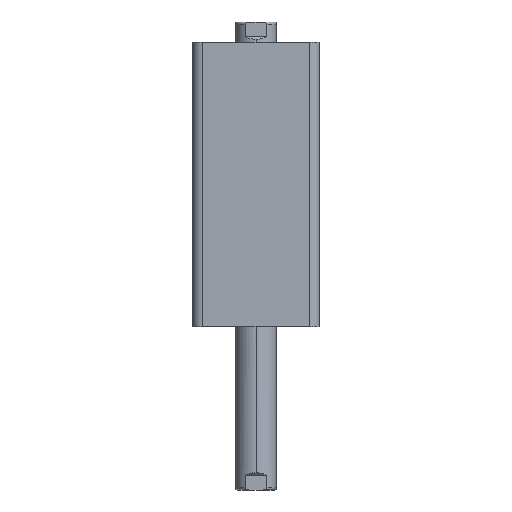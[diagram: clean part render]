
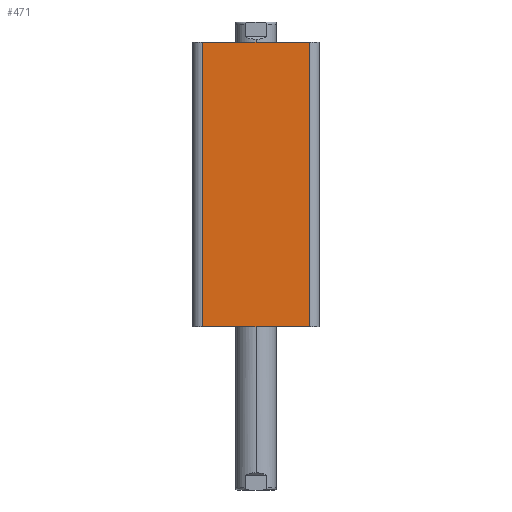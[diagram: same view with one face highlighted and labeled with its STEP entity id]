
A CAD part, left-side view. The second image highlights one B-rep face of the part: STEP entity #471.
In plain terms, the highlighted planar face has unit normal (-1, 0, 0).
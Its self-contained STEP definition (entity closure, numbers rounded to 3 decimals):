
#415 = AXIS2_PLACEMENT_3D ( 'NONE', #2804, #2805, #2806 ) ;
#471 = ADVANCED_FACE ( 'NONE', ( #1388 ), #2802, .F. ) ;
#685 = EDGE_LOOP ( 'NONE', ( #2350, #857, #865, #2370 ) ) ;
#857 = ORIENTED_EDGE ( 'NONE', *, *, #2777, .T. ) ;
#865 = ORIENTED_EDGE ( 'NONE', *, *, #2778, .F. ) ;
#970 = VERTEX_POINT ( 'NONE', #2556 ) ;
#972 = VERTEX_POINT ( 'NONE', #2558 ) ;
#1024 = VERTEX_POINT ( 'NONE', #2610 ) ;
#1033 = VERTEX_POINT ( 'NONE', #2619 ) ;
#1388 = FACE_OUTER_BOUND ( 'NONE', #685, .T. ) ;
#1847 = LINE ( 'NONE', #2004, #1856 ) ;
#1851 = LINE ( 'NONE', #2015, #1854 ) ;
#1854 = VECTOR ( 'NONE', #2016, 1000. ) ;
#1855 = LINE ( 'NONE', #2018, #1858 ) ;
#1856 = VECTOR ( 'NONE', #2017, 1000. ) ;
#1857 = LINE ( 'NONE', #2020, #1860 ) ;
#1858 = VECTOR ( 'NONE', #2019, 1000. ) ;
#1860 = VECTOR ( 'NONE', #2021, 1000. ) ;
#2004 = CARTESIAN_POINT ( 'NONE',  ( -31., -26., 139. ) ) ;
#2015 = CARTESIAN_POINT ( 'NONE',  ( -31., 31., 0. ) ) ;
#2016 = DIRECTION ( 'NONE',  ( 0., -1., 0. ) ) ;
#2017 = DIRECTION ( 'NONE',  ( 0., 0., 1. ) ) ;
#2018 = CARTESIAN_POINT ( 'NONE',  ( -31., 31., 139. ) ) ;
#2019 = DIRECTION ( 'NONE',  ( 0., -1., 0. ) ) ;
#2020 = CARTESIAN_POINT ( 'NONE',  ( -31., 26., 139. ) ) ;
#2021 = DIRECTION ( 'NONE',  ( 0., 0., -1. ) ) ;
#2350 = ORIENTED_EDGE ( 'NONE', *, *, #2776, .T. ) ;
#2370 = ORIENTED_EDGE ( 'NONE', *, *, #2779, .T. ) ;
#2556 = CARTESIAN_POINT ( 'NONE',  ( -31., -26., 0. ) ) ;
#2558 = CARTESIAN_POINT ( 'NONE',  ( -31., 26., 139. ) ) ;
#2610 = CARTESIAN_POINT ( 'NONE',  ( -31., -26., 139. ) ) ;
#2619 = CARTESIAN_POINT ( 'NONE',  ( -31., 26., 0. ) ) ;
#2776 = EDGE_CURVE ( 'NONE', #1033, #970, #1851, .T. ) ;
#2777 = EDGE_CURVE ( 'NONE', #970, #1024, #1847, .T. ) ;
#2778 = EDGE_CURVE ( 'NONE', #972, #1024, #1855, .T. ) ;
#2779 = EDGE_CURVE ( 'NONE', #972, #1033, #1857, .T. ) ;
#2802 = PLANE ( 'NONE',  #415 ) ;
#2804 = CARTESIAN_POINT ( 'NONE',  ( -31., 31., 139. ) ) ;
#2805 = DIRECTION ( 'NONE',  ( 1., 0., 0. ) ) ;
#2806 = DIRECTION ( 'NONE',  ( 0., 1., 0. ) ) ;
